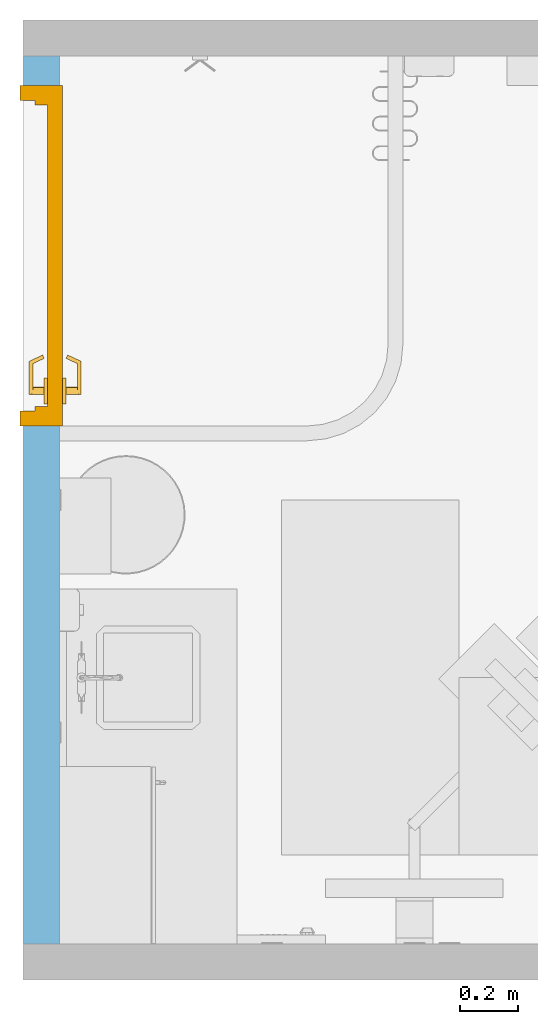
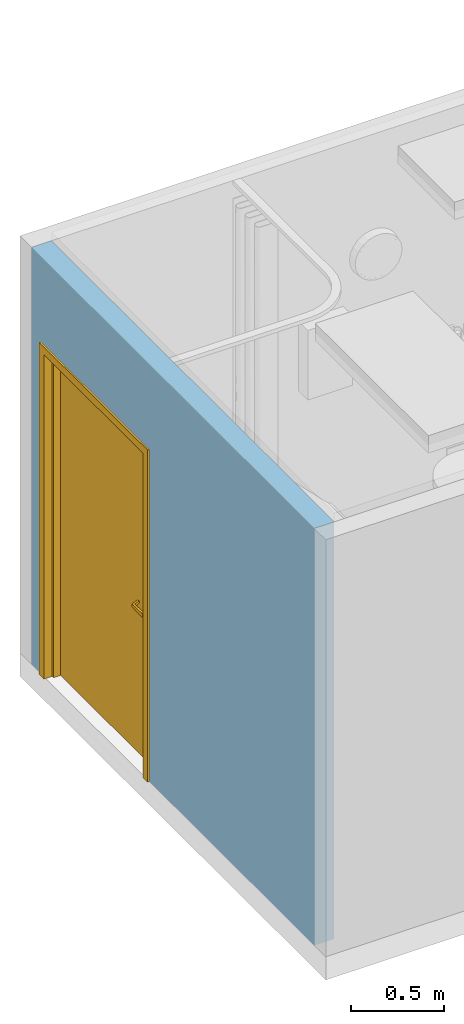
# One storey, part 2 of 10: 1 door, 1 opening, plus 1 element that does not belong to this part.
"""IFC2X3 building model written with IfcOpenShell, lengths in feet."""

from ifc_helpers import new_model, entity, si_unit, converted_unit, derived_unit, direction, frame, frame_2d, origin, place, context, subcontext, project, spatial, rectangle, extrude, faceted_brep, source, transform, mapped, material, layer, layer_set, layer_usage, type_object, type_shapes, element, fill, save


model = new_model("IFC2X3")

# Units and contexts
model_context = context("Model", 3, precision=0.0001, world=origin(), true_north=direction((6.12303176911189e-17, 1.0)))
body_context = subcontext(model_context, "Body", "Model", "MODEL_VIEW")
ifc_project = project(units=[converted_unit("LENGTHUNIT", "FOOT", entity("IfcRatioMeasure", 0.3048), si_unit("LENGTHUNIT", "METRE"), dimensions=[1, 0, 0, 0, 0, 0, 0]), converted_unit("AREAUNIT", "SQUARE FOOT", entity("IfcRatioMeasure", 0.09290304), si_unit("AREAUNIT", "SQUARE_METRE"), dimensions=[2, 0, 0, 0, 0, 0, 0]), converted_unit("VOLUMEUNIT", "CUBIC FOOT", entity("IfcRatioMeasure", 0.028316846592), si_unit("VOLUMEUNIT", "CUBIC_METRE"), dimensions=[3, 0, 0, 0, 0, 0, 0]), converted_unit("PLANEANGLEUNIT", "DEGREE", entity("IfcRatioMeasure", 0.0174532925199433), si_unit("PLANEANGLEUNIT", "RADIAN"), dimensions=[0, 0, 0, 0, 0, 0, 0]), si_unit("MASSUNIT", "GRAM", prefix="KILO"), derived_unit("MASSDENSITYUNIT", [(si_unit("MASSUNIT", "GRAM", prefix="KILO"), 1), (si_unit("LENGTHUNIT", "METRE"), -3)]), si_unit("TIMEUNIT", "SECOND"), si_unit("FREQUENCYUNIT", "HERTZ"), si_unit("THERMODYNAMICTEMPERATUREUNIT", "DEGREE_CELSIUS"), derived_unit("THERMALTRANSMITTANCEUNIT", [(si_unit("MASSUNIT", "GRAM", prefix="KILO"), 1), (si_unit("THERMODYNAMICTEMPERATUREUNIT", "KELVIN"), -1), (si_unit("TIMEUNIT", "SECOND"), -3)]), derived_unit("VOLUMETRICFLOWRATEUNIT", [(si_unit("LENGTHUNIT", "METRE"), 3), (si_unit("TIMEUNIT", "SECOND"), -1)]), si_unit("ELECTRICCURRENTUNIT", "AMPERE"), si_unit("ELECTRICVOLTAGEUNIT", "VOLT"), si_unit("POWERUNIT", "WATT"), si_unit("FORCEUNIT", "NEWTON"), si_unit("ILLUMINANCEUNIT", "LUX"), si_unit("LUMINOUSFLUXUNIT", "LUMEN"), si_unit("LUMINOUSINTENSITYUNIT", "CANDELA"), derived_unit("USERDEFINED", [(si_unit("MASSUNIT", "GRAM", prefix="KILO"), -1), (si_unit("LENGTHUNIT", "METRE"), -2), (si_unit("TIMEUNIT", "SECOND"), 3), (si_unit("LUMINOUSFLUXUNIT", "LUMEN"), 1)]), derived_unit("LINEARVELOCITYUNIT", [(si_unit("LENGTHUNIT", "METRE"), 1), (si_unit("TIMEUNIT", "SECOND"), -1)]), si_unit("PRESSUREUNIT", "PASCAL"), derived_unit("USERDEFINED", [(si_unit("LENGTHUNIT", "METRE"), -2), (si_unit("MASSUNIT", "GRAM", prefix="KILO"), 1), (si_unit("TIMEUNIT", "SECOND"), -2)])], contexts=[model_context])

# Site, building, storey
site_placement = place(None, origin())
site = spatial("IfcSite", under=ifc_project, at=site_placement, Name="Default", CompositionType="ELEMENT")
building_placement = place(site_placement, origin())
building = spatial("IfcBuilding", under=site, at=building_placement, Name="OUTPATIENT / PACT CLINIC (Ch. 265)", CompositionType="ELEMENT")
storey_placement = place(building_placement, origin())
storey = spatial("IfcBuildingStorey", under=building, at=storey_placement, Name="DATUM", CompositionType="ELEMENT", Elevation=0.0)

# Wall, opening, door
ifc_material = material(Name="<Unnamed>")
ifc_layer = layer(ifc_material, 0.40625)
ifc_layer_set = layer_set([ifc_layer], Name="Basic Wall:Interior - 4 7/8\"")
ifc_layer_usage = layer_usage(ifc_layer_set, "AXIS2", "POSITIVE", -0.203125)
wall_type = type_object("IfcWallType", Name="Basic Wall:Interior - 4 7/8\"", PredefinedType="STANDARD", material=ifc_layer_set)
wall_placement = place(storey_placement, frame((236.063285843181, -849.855546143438, 0.0), z_axis=(0.0, 0.0, 1.0), x_axis=(0.0, -1.0, 0.0)))
wall = element("IfcWallStandardCase", 1, at=wall_placement, inside=storey, type_object=wall_type, material=ifc_layer_usage, Name="Basic Wall:Interior - 4 7/8\"", ObjectType="Basic Wall:Interior - 4 7/8\"", context=body_context, shape_type="SweptSolid", body=[
    extrude(rectangle(XDim=10.0000000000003, YDim=0.40625, at=frame_2d((5.00000000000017, 7.82707232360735e-15), x_axis=(-1.0, 0.0))), origin(), (0.0, 0.0, 1.0), 9.0),
])
opening_placement = place(wall_placement, frame((0.333333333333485, -0.203125, 0.0)))
opening = element("IfcOpeningElement", 2, at=opening_placement, cuts=wall, Name="Single - Flush:42\" x 84\":1", ObjectType="Opening", context=body_context, shape_type="SweptSolid", body=[
    extrude(rectangle(XDim=3.83333333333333, YDim=7.16666666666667, at=frame_2d((3.58333333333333, 1.91666666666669), x_axis=(0.0, -1.0))), frame((0.0, 0.0, 0.0), z_axis=(0.0, 1.0, 0.0), x_axis=(0.0, 0.0, 1.0)), (0.0, 0.0, 1.0), 0.40625),
])
door_style = type_object("IfcDoorStyle", Name="42\" x 84\"", ConstructionType="NOTDEFINED", OperationType="NOTDEFINED", ParameterTakesPrecedence=False, Sizeable=False)
shared_shape = source(origin(), body_context, "Body", "Brep", [
    faceted_brep([(3.12432039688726, 0.123080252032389, 3.36458333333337), (3.1307112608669, 0.109375, 3.36458333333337), (3.1307112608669, 0.109375, 3.30208333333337), (3.12432039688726, 0.12308025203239, 3.30208333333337), (3.07149311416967, 0.23636872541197, 3.31250000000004), (3.07149311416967, 0.23636872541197, 3.3541666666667), (3.03373028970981, 0.218759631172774, 3.31250000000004), (3.0865575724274, 0.105471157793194, 3.30208333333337), (3.10416666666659, 0.0677083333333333, 3.30208333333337), (3.10416666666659, 0.067708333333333, 3.36458333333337), (3.0865575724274, 0.105471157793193, 3.36458333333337), (3.03373028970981, 0.218759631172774, 3.3541666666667), (3.10416666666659, 0.109375, 3.30208333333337), (3.10416666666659, 0.109375, 3.36458333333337), (3.43619600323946, 0.0677083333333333, 3.29168707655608), (3.44639661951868, 0.0677083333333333, 3.29262754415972), (3.45605949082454, 0.0677083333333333, 3.29602842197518), (3.46460055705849, 0.0677083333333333, 3.3016841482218), (3.47150356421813, 0.0677083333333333, 3.30925286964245), (3.47635126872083, 0.0677083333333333, 3.31827710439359), (3.47885065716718, 0.0677083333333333, 3.32821139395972), (3.47885065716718, 0.0677083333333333, 3.33845527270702), (3.47635126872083, 0.0677083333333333, 3.34838956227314), (3.47150356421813, 0.0677083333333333, 3.35741379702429), (3.46460055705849, 0.0677083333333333, 3.36498251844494), (3.45605949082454, 0.0677083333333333, 3.37063824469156), (3.44639661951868, 0.0677083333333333, 3.37403912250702), (3.43619600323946, 0.0677083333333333, 3.37497959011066), (3.42566985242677, 0.109375, 3.29338137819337), (3.43619600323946, 0.109375, 3.29168707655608), (3.43619600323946, 0.109375, 3.37497959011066), (3.42566985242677, 0.109375, 3.37328528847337), (3.41591827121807, 0.109375, 3.36897516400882), (3.40757973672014, 0.109375, 3.36233141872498), (3.40120020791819, 0.109375, 3.35378904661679), (3.3971973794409, 0.109375, 3.34390735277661), (3.39583333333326, 0.109375, 3.33333333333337), (3.3971973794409, 0.109375, 3.32275931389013), (3.40120020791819, 0.109375, 3.31287762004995), (3.40757973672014, 0.109375, 3.30433524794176), (3.41591827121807, 0.109375, 3.29769150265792), (3.44568224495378, 0.109375, 3.29247795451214), (3.45473886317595, 0.109375, 3.2954000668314), (3.46289592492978, 0.109375, 3.30030065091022), (3.46972778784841, 0.109375, 3.30692347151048), (3.47487870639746, 0.109375, 3.31492291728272), (3.47808054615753, 0.109375, 3.32388185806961), (3.47916666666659, 0.109375, 3.33333333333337), (3.47808054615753, 0.109375, 3.34278480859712), (3.47487870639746, 0.109375, 3.35174374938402), (3.46972778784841, 0.109375, 3.35974319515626), (3.46289592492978, 0.109375, 3.36636601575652), (3.45473886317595, 0.109375, 3.37126659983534), (3.44568224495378, 0.109375, 3.3741887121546), (3.47774690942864, 0.234375, 3.34411746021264), (3.47916666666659, 0.234375, 3.33333333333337), (3.47358439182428, 0.234375, 3.3541666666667), (3.46696278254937, 0.234375, 3.36279611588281), (3.45833333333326, 0.234375, 3.36941772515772), (3.4482841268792, 0.234375, 3.37358024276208), (3.43749999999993, 0.234375, 3.37500000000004), (3.42671587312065, 0.234375, 3.37358024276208), (3.41666666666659, 0.234375, 3.36941772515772), (3.40803721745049, 0.234375, 3.36279611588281), (3.40141560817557, 0.234375, 3.3541666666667), (3.39725309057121, 0.234375, 3.34411746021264), (3.39583333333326, 0.234375, 3.33333333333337), (3.39725309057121, 0.234375, 3.3225492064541), (3.40141560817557, 0.234375, 3.31250000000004), (3.40803721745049, 0.234375, 3.30387055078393), (3.41666666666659, 0.234375, 3.29724894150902), (3.42671587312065, 0.234375, 3.29308642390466), (3.43749999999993, 0.234375, 3.2916666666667), (3.4482841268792, 0.234375, 3.29308642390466), (3.45833333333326, 0.234375, 3.29724894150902), (3.46696278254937, 0.234375, 3.30387055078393), (3.47358439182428, 0.234375, 3.31250000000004), (3.47774690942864, 0.234375, 3.3225492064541), (3.36458333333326, 0.234375, 3.4596287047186), (3.33438026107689, 0.234375, 3.43645307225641), (3.39975555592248, 0.234375, 3.47419751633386), (3.43749999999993, 0.234375, 3.4791666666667), (3.47524444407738, 0.234375, 3.47419751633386), (3.51041666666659, 0.234375, 3.4596287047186), (3.54061973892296, 0.234375, 3.43645307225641), (3.56379537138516, 0.234375, 3.40625000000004), (3.57836418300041, 0.234375, 3.37107777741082), (3.58333333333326, 0.234375, 3.33333333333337), (3.57836418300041, 0.234375, 3.29558888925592), (3.56379537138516, 0.234375, 3.2604166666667), (3.54061973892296, 0.234375, 3.23021359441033), (3.51041666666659, 0.234375, 3.20703796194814), (3.47524444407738, 0.234375, 3.19246915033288), (3.43749999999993, 0.234375, 3.18750000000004), (3.39975555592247, 0.234375, 3.19246915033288), (3.36458333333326, 0.234375, 3.20703796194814), (3.33438026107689, 0.234375, 3.23021359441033), (3.3112046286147, 0.234375, 3.2604166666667), (3.29663581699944, 0.234375, 3.29558888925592), (3.29166666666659, 0.234375, 3.33333333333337), (3.29663581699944, 0.234375, 3.37107777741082), (3.3112046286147, 0.234375, 3.40625000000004), (3.33438026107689, 0.276041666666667, 3.23021359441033), (3.3112046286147, 0.276041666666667, 3.2604166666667), (3.29663581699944, 0.276041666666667, 3.29558888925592), (3.29166666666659, 0.276041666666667, 3.33333333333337), (3.29663581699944, 0.276041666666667, 3.37107777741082), (3.3112046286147, 0.276041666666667, 3.40625000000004), (3.33438026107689, 0.276041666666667, 3.43645307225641), (3.36458333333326, 0.276041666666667, 3.4596287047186), (3.39975555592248, 0.276041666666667, 3.47419751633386), (3.43749999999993, 0.276041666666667, 3.4791666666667), (3.47524444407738, 0.276041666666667, 3.47419751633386), (3.51041666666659, 0.276041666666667, 3.4596287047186), (3.54061973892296, 0.276041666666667, 3.43645307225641), (3.56379537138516, 0.276041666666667, 3.40625000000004), (3.57836418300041, 0.276041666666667, 3.37107777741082), (3.58333333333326, 0.276041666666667, 3.33333333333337), (3.57836418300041, 0.276041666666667, 3.29558888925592), (3.56379537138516, 0.276041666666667, 3.2604166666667), (3.54061973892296, 0.276041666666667, 3.23021359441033), (3.51041666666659, 0.276041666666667, 3.20703796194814), (3.47524444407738, 0.276041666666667, 3.19246915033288), (3.43749999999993, 0.276041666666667, 3.18750000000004), (3.39975555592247, 0.276041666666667, 3.19246915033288), (3.36458333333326, 0.276041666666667, 3.20703796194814)], [[[0, 1, 2, 3, 4, 5]], [[6, 7, 8, 9, 10, 11]], [[3, 2, 12, 8, 7]], [[4, 3, 7, 6]], [[5, 4, 6, 11]], [[0, 5, 11, 10]], [[1, 0, 10, 9, 13]], [[9, 8, 14, 15, 16, 17, 18, 19, 20, 21, 22, 23, 24, 25, 26, 27]], [[28, 29, 12, 2, 1, 13, 30, 31, 32, 33, 34, 35, 36, 37, 38, 39, 40]], [[14, 8, 12, 29]], [[41, 14, 29]], [[42, 15, 41]], [[17, 43, 44]], [[44, 45, 18]], [[42, 43, 16]], [[46, 19, 45]], [[42, 16, 15]], [[15, 14, 41]], [[19, 18, 45]], [[17, 44, 18]], [[17, 16, 43]], [[20, 19, 46]], [[46, 47, 20]], [[48, 21, 47]], [[49, 22, 48]], [[24, 50, 51]], [[51, 52, 25]], [[49, 50, 23]], [[53, 26, 52]], [[24, 23, 50]], [[23, 22, 49]], [[22, 21, 48]], [[27, 26, 53]], [[25, 52, 26]], [[25, 24, 51]], [[27, 53, 30]], [[47, 21, 20]], [[9, 27, 30, 13]], [[54, 48, 55]], [[56, 49, 54]], [[51, 57, 58]], [[56, 57, 50]], [[52, 58, 59]], [[54, 49, 48]], [[48, 47, 55]], [[52, 51, 58]], [[50, 57, 51]], [[50, 49, 56]], [[53, 52, 59]], [[59, 60, 53]], [[61, 30, 60]], [[62, 31, 61]], [[33, 63, 64]], [[64, 65, 34]], [[62, 63, 32]], [[66, 35, 65]], [[62, 32, 31]], [[31, 30, 61]], [[35, 34, 65]], [[33, 64, 34]], [[33, 32, 63]], [[36, 35, 66]], [[60, 30, 53]], [[67, 37, 66]], [[68, 38, 67]], [[40, 69, 70]], [[68, 69, 39]], [[28, 70, 71]], [[67, 38, 37]], [[37, 36, 66]], [[28, 40, 70]], [[39, 69, 40]], [[39, 38, 68]], [[29, 28, 71]], [[71, 72, 29]], [[73, 41, 72]], [[74, 42, 73]], [[44, 75, 76]], [[76, 77, 45]], [[74, 75, 43]], [[55, 46, 77]], [[74, 43, 42]], [[42, 41, 73]], [[46, 45, 77]], [[44, 76, 45]], [[44, 43, 75]], [[47, 46, 55]], [[72, 41, 29]], [[62, 61, 78]], [[79, 62, 78]], [[62, 79, 63]], [[61, 80, 78]], [[80, 61, 60]], [[80, 60, 81]], [[59, 81, 60]], [[81, 59, 82]], [[59, 58, 82]], [[83, 82, 58]], [[57, 83, 58]], [[83, 57, 84]], [[56, 84, 57]], [[85, 84, 56]], [[54, 85, 56]], [[86, 85, 54]], [[86, 54, 55]], [[86, 55, 87]], [[87, 55, 77]], [[87, 77, 88]], [[88, 77, 76]], [[88, 76, 89]], [[90, 89, 76]], [[90, 76, 75]], [[75, 91, 90]], [[75, 74, 91]], [[92, 91, 74]], [[73, 92, 74]], [[73, 93, 92]], [[93, 73, 72]], [[72, 94, 93]], [[71, 94, 72]], [[94, 71, 95]], [[70, 95, 71]], [[96, 95, 70]], [[96, 70, 69]], [[96, 69, 97]], [[97, 69, 68]], [[97, 68, 98]], [[67, 98, 68]], [[99, 98, 67]], [[67, 66, 99]], [[66, 100, 99]], [[100, 66, 65]], [[100, 65, 101]], [[65, 64, 101]], [[63, 101, 64]], [[79, 101, 63]], [[102, 103, 104, 105, 106, 107, 108, 109, 110, 111, 112, 113, 114, 115, 116, 117, 118, 119, 120, 121, 122, 123, 124, 125]], [[116, 86, 87, 117]], [[115, 85, 86, 116]], [[83, 84, 114, 113]], [[115, 114, 84, 85]], [[82, 83, 113, 112]], [[81, 82, 112, 111]], [[110, 80, 81, 111]], [[109, 78, 80, 110]], [[101, 79, 108, 107]], [[109, 108, 79, 78]], [[100, 101, 107, 106]], [[99, 100, 106, 105]], [[104, 98, 99, 105]], [[103, 97, 98, 104]], [[95, 96, 102, 125]], [[103, 102, 96, 97]], [[94, 95, 125, 124]], [[93, 94, 124, 123]], [[122, 92, 93, 123]], [[121, 91, 92, 122]], [[89, 90, 120, 119]], [[121, 120, 90, 91]], [[88, 89, 119, 118]], [[87, 88, 118, 117]]]),
    faceted_brep([(3.12432039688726, 0.595669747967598, 3.30208333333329), (3.13071126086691, 0.609374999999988, 3.30208333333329), (3.13071126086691, 0.609374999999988, 3.36458333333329), (3.12432039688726, 0.595669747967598, 3.36458333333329), (3.07149311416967, 0.482381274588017, 3.35416666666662), (3.07149311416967, 0.482381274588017, 3.31249999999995), (3.03373028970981, 0.499990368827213, 3.35416666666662), (3.0865575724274, 0.613278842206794, 3.36458333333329), (3.10416666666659, 0.651041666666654, 3.36458333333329), (3.10416666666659, 0.651041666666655, 3.30208333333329), (3.0865575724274, 0.613278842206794, 3.30208333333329), (3.03373028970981, 0.499990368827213, 3.31249999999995), (3.10416666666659, 0.609374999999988, 3.36458333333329), (3.10416666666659, 0.609374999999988, 3.30208333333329), (3.43619600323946, 0.651041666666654, 3.37497959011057), (3.44639661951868, 0.651041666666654, 3.37403912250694), (3.45605949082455, 0.651041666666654, 3.37063824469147), (3.46460055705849, 0.651041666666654, 3.36498251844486), (3.47150356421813, 0.651041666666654, 3.35741379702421), (3.47635126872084, 0.651041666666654, 3.34838956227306), (3.47885065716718, 0.651041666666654, 3.33845527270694), (3.47885065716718, 0.651041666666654, 3.32821139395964), (3.47635126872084, 0.651041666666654, 3.31827710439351), (3.47150356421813, 0.651041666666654, 3.30925286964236), (3.4646005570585, 0.651041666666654, 3.30168414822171), (3.45605949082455, 0.651041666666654, 3.2960284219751), (3.44639661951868, 0.651041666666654, 3.29262754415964), (3.43619600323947, 0.651041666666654, 3.291687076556), (3.42566985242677, 0.609374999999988, 3.37328528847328), (3.43619600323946, 0.609374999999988, 3.37497959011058), (3.43619600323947, 0.609374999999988, 3.291687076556), (3.42566985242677, 0.609374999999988, 3.29338137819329), (3.41591827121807, 0.609374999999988, 3.29769150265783), (3.40757973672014, 0.609374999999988, 3.30433524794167), (3.40120020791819, 0.609374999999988, 3.31287762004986), (3.3971973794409, 0.609374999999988, 3.32275931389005), (3.39583333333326, 0.609374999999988, 3.33333333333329), (3.3971973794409, 0.609374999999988, 3.34390735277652), (3.40120020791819, 0.609374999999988, 3.35378904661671), (3.40757973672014, 0.609374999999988, 3.3623314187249), (3.41591827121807, 0.609374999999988, 3.36897516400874), (3.44568224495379, 0.609374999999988, 3.37418871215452), (3.45473886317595, 0.609374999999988, 3.37126659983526), (3.46289592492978, 0.609374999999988, 3.36636601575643), (3.46972778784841, 0.609374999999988, 3.35974319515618), (3.47487870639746, 0.609374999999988, 3.35174374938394), (3.47808054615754, 0.609374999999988, 3.34278480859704), (3.47916666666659, 0.609374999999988, 3.33333333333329), (3.47808054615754, 0.609374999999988, 3.32388185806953), (3.47487870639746, 0.609374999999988, 3.31492291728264), (3.46972778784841, 0.609374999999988, 3.30692347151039), (3.46289592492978, 0.609374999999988, 3.30030065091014), (3.45473886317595, 0.609374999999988, 3.29540006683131), (3.44568224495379, 0.609374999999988, 3.29247795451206), (3.47774690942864, 0.484374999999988, 3.32254920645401), (3.47916666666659, 0.484374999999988, 3.33333333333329), (3.47358439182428, 0.484374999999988, 3.31249999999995), (3.46696278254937, 0.484374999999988, 3.30387055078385), (3.45833333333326, 0.484374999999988, 3.29724894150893), (3.4482841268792, 0.484374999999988, 3.29308642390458), (3.43749999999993, 0.484374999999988, 3.29166666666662), (3.42671587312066, 0.484374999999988, 3.29308642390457), (3.41666666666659, 0.484374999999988, 3.29724894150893), (3.40803721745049, 0.484374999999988, 3.30387055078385), (3.40141560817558, 0.484374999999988, 3.31249999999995), (3.39725309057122, 0.484374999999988, 3.32254920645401), (3.39583333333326, 0.484374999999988, 3.33333333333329), (3.39725309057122, 0.484374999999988, 3.34411746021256), (3.40141560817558, 0.484374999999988, 3.35416666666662), (3.40803721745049, 0.484374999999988, 3.36279611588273), (3.41666666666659, 0.484374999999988, 3.36941772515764), (3.42671587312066, 0.484374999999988, 3.373580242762), (3.43749999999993, 0.484374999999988, 3.37499999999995), (3.4482841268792, 0.484374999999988, 3.373580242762), (3.45833333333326, 0.484374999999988, 3.36941772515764), (3.46696278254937, 0.484374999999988, 3.36279611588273), (3.47358439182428, 0.484374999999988, 3.35416666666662), (3.47774690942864, 0.484374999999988, 3.34411746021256), (3.36458333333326, 0.484374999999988, 3.20703796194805), (3.33438026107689, 0.484374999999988, 3.23021359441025), (3.39975555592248, 0.484374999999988, 3.1924691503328), (3.43749999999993, 0.484374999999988, 3.18749999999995), (3.47524444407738, 0.484374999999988, 3.1924691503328), (3.51041666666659, 0.484374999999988, 3.20703796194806), (3.54061973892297, 0.484374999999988, 3.23021359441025), (3.56379537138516, 0.484374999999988, 3.26041666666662), (3.57836418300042, 0.484374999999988, 3.29558888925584), (3.58333333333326, 0.484374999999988, 3.33333333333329), (3.57836418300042, 0.484374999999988, 3.37107777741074), (3.56379537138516, 0.484374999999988, 3.40624999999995), (3.54061973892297, 0.484374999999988, 3.43645307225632), (3.51041666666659, 0.484374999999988, 3.45962870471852), (3.47524444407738, 0.484374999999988, 3.47419751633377), (3.43749999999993, 0.484374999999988, 3.47916666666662), (3.39975555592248, 0.484374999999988, 3.47419751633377), (3.36458333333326, 0.484374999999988, 3.45962870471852), (3.33438026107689, 0.484374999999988, 3.43645307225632), (3.3112046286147, 0.484374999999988, 3.40624999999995), (3.29663581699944, 0.484374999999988, 3.37107777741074), (3.29166666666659, 0.484374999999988, 3.33333333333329), (3.29663581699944, 0.484374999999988, 3.29558888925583), (3.3112046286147, 0.484374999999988, 3.26041666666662), (3.33438026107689, 0.442708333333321, 3.43645307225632), (3.3112046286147, 0.442708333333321, 3.40624999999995), (3.29663581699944, 0.442708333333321, 3.37107777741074), (3.29166666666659, 0.442708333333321, 3.33333333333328), (3.29663581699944, 0.442708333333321, 3.29558888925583), (3.3112046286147, 0.442708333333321, 3.26041666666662), (3.33438026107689, 0.442708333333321, 3.23021359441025), (3.36458333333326, 0.442708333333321, 3.20703796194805), (3.39975555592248, 0.442708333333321, 3.1924691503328), (3.43749999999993, 0.442708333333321, 3.18749999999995), (3.47524444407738, 0.442708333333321, 3.1924691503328), (3.51041666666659, 0.442708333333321, 3.20703796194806), (3.54061973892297, 0.442708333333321, 3.23021359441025), (3.56379537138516, 0.442708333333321, 3.26041666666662), (3.57836418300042, 0.442708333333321, 3.29558888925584), (3.58333333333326, 0.442708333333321, 3.33333333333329), (3.57836418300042, 0.442708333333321, 3.37107777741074), (3.56379537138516, 0.442708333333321, 3.40624999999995), (3.54061973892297, 0.442708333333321, 3.43645307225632), (3.51041666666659, 0.442708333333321, 3.45962870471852), (3.47524444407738, 0.442708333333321, 3.47419751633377), (3.43749999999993, 0.442708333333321, 3.47916666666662), (3.39975555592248, 0.442708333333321, 3.47419751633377), (3.36458333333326, 0.442708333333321, 3.45962870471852)], [[[0, 1, 2, 3, 4, 5]], [[6, 7, 8, 9, 10, 11]], [[3, 2, 12, 8, 7]], [[4, 3, 7, 6]], [[5, 4, 6, 11]], [[0, 5, 11, 10]], [[1, 0, 10, 9, 13]], [[9, 8, 14, 15, 16, 17, 18, 19, 20, 21, 22, 23, 24, 25, 26, 27]], [[28, 29, 12, 2, 1, 13, 30, 31, 32, 33, 34, 35, 36, 37, 38, 39, 40]], [[14, 8, 12, 29]], [[41, 14, 29]], [[42, 15, 41]], [[17, 43, 44]], [[44, 45, 18]], [[42, 43, 16]], [[46, 19, 45]], [[42, 16, 15]], [[15, 14, 41]], [[19, 18, 45]], [[17, 44, 18]], [[17, 16, 43]], [[20, 19, 46]], [[46, 47, 20]], [[48, 21, 47]], [[49, 22, 48]], [[24, 50, 51]], [[51, 52, 25]], [[49, 50, 23]], [[53, 26, 52]], [[24, 23, 50]], [[23, 22, 49]], [[22, 21, 48]], [[27, 26, 53]], [[25, 52, 26]], [[25, 24, 51]], [[27, 53, 30]], [[47, 21, 20]], [[9, 27, 30, 13]], [[54, 48, 55]], [[56, 49, 54]], [[51, 57, 58]], [[56, 57, 50]], [[52, 58, 59]], [[54, 49, 48]], [[48, 47, 55]], [[52, 51, 58]], [[50, 57, 51]], [[50, 49, 56]], [[53, 52, 59]], [[59, 60, 53]], [[61, 30, 60]], [[62, 31, 61]], [[33, 63, 64]], [[64, 65, 34]], [[62, 63, 32]], [[66, 35, 65]], [[62, 32, 31]], [[31, 30, 61]], [[35, 34, 65]], [[33, 64, 34]], [[33, 32, 63]], [[36, 35, 66]], [[60, 30, 53]], [[67, 37, 66]], [[68, 38, 67]], [[40, 69, 70]], [[68, 69, 39]], [[28, 70, 71]], [[67, 38, 37]], [[37, 36, 66]], [[28, 40, 70]], [[39, 69, 40]], [[39, 38, 68]], [[29, 28, 71]], [[71, 72, 29]], [[73, 41, 72]], [[74, 42, 73]], [[44, 75, 76]], [[76, 77, 45]], [[74, 75, 43]], [[55, 46, 77]], [[74, 43, 42]], [[42, 41, 73]], [[46, 45, 77]], [[44, 76, 45]], [[44, 43, 75]], [[47, 46, 55]], [[72, 41, 29]], [[62, 61, 78]], [[79, 62, 78]], [[62, 79, 63]], [[61, 80, 78]], [[80, 61, 60]], [[80, 60, 81]], [[59, 81, 60]], [[81, 59, 82]], [[59, 58, 82]], [[83, 82, 58]], [[57, 83, 58]], [[83, 57, 84]], [[56, 84, 57]], [[85, 84, 56]], [[54, 85, 56]], [[86, 85, 54]], [[86, 54, 55]], [[86, 55, 87]], [[87, 55, 77]], [[87, 77, 88]], [[88, 77, 76]], [[88, 76, 89]], [[90, 89, 76]], [[90, 76, 75]], [[75, 91, 90]], [[75, 74, 91]], [[92, 91, 74]], [[73, 92, 74]], [[73, 93, 92]], [[93, 73, 72]], [[72, 94, 93]], [[71, 94, 72]], [[94, 71, 95]], [[70, 95, 71]], [[96, 95, 70]], [[96, 70, 69]], [[96, 69, 97]], [[97, 69, 68]], [[97, 68, 98]], [[67, 98, 68]], [[99, 98, 67]], [[67, 66, 99]], [[66, 100, 99]], [[100, 66, 65]], [[100, 65, 101]], [[65, 64, 101]], [[63, 101, 64]], [[79, 101, 63]], [[102, 103, 104, 105, 106, 107, 108, 109, 110, 111, 112, 113, 114, 115, 116, 117, 118, 119, 120, 121, 122, 123, 124, 125]], [[116, 86, 87, 117]], [[115, 85, 86, 116]], [[83, 84, 114, 113]], [[115, 114, 84, 85]], [[82, 83, 113, 112]], [[81, 82, 112, 111]], [[110, 80, 81, 111]], [[109, 78, 80, 110]], [[101, 79, 108, 107]], [[109, 108, 79, 78]], [[100, 101, 107, 106]], [[99, 100, 106, 105]], [[104, 98, 99, 105]], [[103, 97, 98, 104]], [[95, 96, 102, 125]], [[103, 102, 96, 97]], [[94, 95, 125, 124]], [[93, 94, 124, 123]], [[122, 92, 93, 123]], [[121, 91, 92, 122]], [[89, 90, 120, 119]], [[121, 120, 90, 91]], [[88, 89, 119, 118]], [[87, 88, 118, 117]]]),
    faceted_brep([(0.16666666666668, 0.442708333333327, 7.0), (3.66666666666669, 0.442708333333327, 7.0), (3.66666666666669, 0.442708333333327, 0.0), (0.16666666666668, 0.442708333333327, 0.0), (0.16666666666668, 0.276041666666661, 7.0), (0.16666666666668, 0.276041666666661, 0.0), (3.66666666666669, 0.276041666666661, 0.0), (3.66666666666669, 0.276041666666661, 7.0)], [[[0, 1, 2, 3]], [[4, 5, 6, 7]], [[1, 0, 4, 7]], [[2, 1, 7, 6]], [[3, 2, 6, 5]], [[0, 3, 5, 4]]]),
    faceted_brep([(0.166666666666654, 0.442708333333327, 0.0), (0.166666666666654, 0.276041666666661, 0.0), (0.218749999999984, 0.276041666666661, 0.0), (0.218749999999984, 0.130208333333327, 0.0), (0.166666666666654, 0.130208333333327, 0.0), (0.166666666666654, -0.0364583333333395, 0.0), (0.0, -0.0364583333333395, 0.0), (0.0, 0.442708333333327, 0.0), (0.166666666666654, 0.442708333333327, 7.0), (0.166666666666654, 0.276041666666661, 7.0), (3.66666666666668, 0.276041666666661, 7.0), (3.66666666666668, 0.276041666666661, 0.0), (3.61458333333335, 0.27604166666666, 0.0), (3.61458333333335, 0.276041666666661, 6.94791666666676), (0.218749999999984, 0.276041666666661, 6.94791666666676), (0.218749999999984, 0.130208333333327, 6.94791666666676), (3.61458333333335, 0.130208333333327, 6.94791666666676), (3.61458333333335, 0.130208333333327, 0.0), (3.66666666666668, 0.130208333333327, 0.0), (3.66666666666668, 0.130208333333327, 7.0), (0.166666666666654, 0.130208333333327, 7.0), (0.166666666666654, -0.0364583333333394, 7.0), (3.66666666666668, -0.0364583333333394, 7.0), (3.66666666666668, -0.0364583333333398, 0.0), (3.83333333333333, -0.0364583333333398, 0.0), (3.83333333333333, -0.0364583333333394, 7.16666666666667), (0.0, -0.0364583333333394, 7.16666666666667), (0.0, 0.442708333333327, 7.16666666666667), (3.83333333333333, 0.442708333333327, 7.16666666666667), (3.83333333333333, 0.442708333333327, 0.0), (3.66666666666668, 0.442708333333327, 0.0), (3.66666666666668, 0.442708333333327, 7.0)], [[[0, 1, 2, 3, 4, 5, 6, 7]], [[1, 0, 8, 9]], [[2, 1, 9, 10, 11, 12, 13, 14]], [[3, 2, 14, 15]], [[4, 3, 15, 16, 17, 18, 19, 20]], [[5, 4, 20, 21]], [[6, 5, 21, 22, 23, 24, 25, 26]], [[7, 6, 26, 27]], [[0, 7, 27, 28, 29, 30, 31, 8]], [[30, 11, 10, 31]], [[30, 29, 24, 23, 18, 17, 12, 11]], [[12, 17, 16, 13]], [[19, 18, 23, 22]], [[29, 28, 25, 24]], [[10, 9, 8, 31]], [[15, 14, 13, 16]], [[21, 20, 19, 22]], [[25, 28, 27, 26]]]),
])
type_shapes(door_style, [shared_shape])
door_placement = place(opening_placement, origin())
door = element("IfcDoor", 3, at=door_placement, inside=storey, type_object=door_style, Name="Single - Flush:42\" x 84\"", ObjectType="42\" x 84\"", OverallHeight=7.16666666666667, OverallWidth=3.83333333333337, context=body_context, shape_type="MappedRepresentation", body=[
    mapped(shared_shape, transform((0.0, 0.0, 0.0), scale=1.0)),
])
fill(opening, door)

save(model, "model.ifc")
